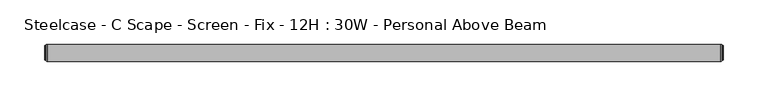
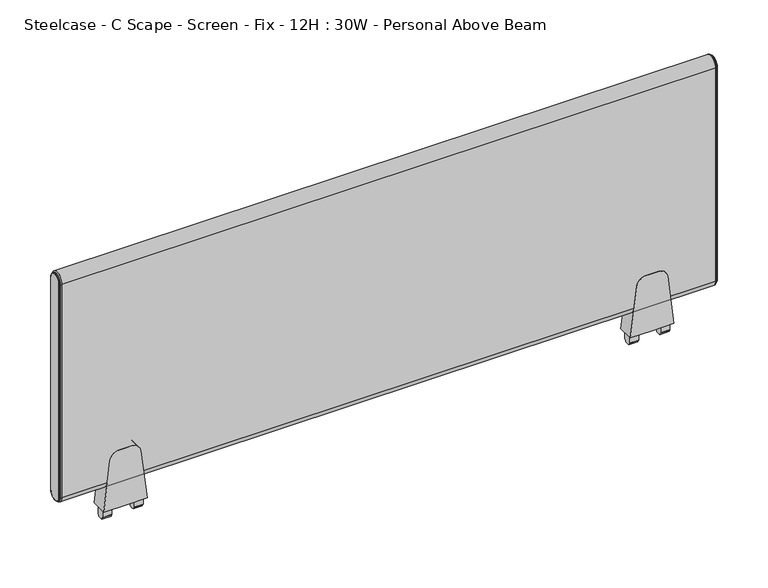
"""IFC4 building model written with IfcOpenShell, lengths in millimetres: furniture geometry, Steelcase - C Scape - Screen - Fix - 12H : 30W - Personal Above Beam."""

from ifc_helpers import new_model, si_unit, point, frame, frame_2d, origin, place, context, project, spatial, polyline, circle_curve, ellipse_curve, trimmed, segment, composite_curve, outline, extrude, source, transform, mapped, element, save
from ifc_brep_helpers import plane_surface, cylinder_surface, revolved_surface, advanced_brep


def steelcase_c_scape_screen_fix_12h_30w_personal_above_beam_dff0a0fa(model_context):
    return source(origin(), model_context, "Body", "SolidModel", [
        extrude(outline(composite_curve([segment(polyline([(609.511112, 101.4730434), (669.8362421, 94.0661495)]), True, "CONTINUOUS"), segment(trimmed(circle_curve(frame_2d((668.5143718, 83.300233)), 10.8467645), [point((669.8362421, 94.0661495))], [point((679.3611362, 83.300233))], False, "CARTESIAN"), True, "CONTINUOUS"), segment(polyline([(679.3611362, 83.300233), (679.3611362, 76.2001674), (679.3611362, 69.1001018)]), True, "CONTINUOUS"), segment(trimmed(circle_curve(frame_2d((668.5143718, 69.1001018)), 10.8467645), [point((679.3611362, 69.1001018))], [point((669.8362421, 58.3341853))], False, "CARTESIAN"), True, "CONTINUOUS"), segment(polyline([(669.8362421, 58.3341853), (609.511112, 50.9272915), (609.511112, 76.2001674), (609.511112, 101.4730434)]), True, "CONTINUOUS")], self_intersect=False)), frame((0.0, -9.525, 0.0), z_axis=(0.0, 1.0, 0.0), x_axis=(0.0, 0.0, 1.0)), (0.0, 0.0, 1.0), 19.05),
        extrude(outline(polyline([(4.5465975, 609.511112), (4.5465975, 599.6051033), (4.0139265, 598.7186748), (2.9972008, 598.7186748), (2.9972008, 596.4834188), (0.0, 596.392), (-2.9972008, 596.4834188), (-2.9972008, 598.7186748), (-4.0139265, 598.7186748), (-4.5465975, 599.6051033), (-4.5465975, 609.511112), (0.0, 609.511112), (4.5465975, 609.511112)])), frame((88.9267162, 0.0, 0.0), z_axis=(1.0, 0.0, 0.0), x_axis=(0.0, 1.0, 0.0)), (0.0, 0.0, 1.0), 10.7813187),
        extrude(outline(polyline([(4.5465975, 609.511112), (4.5465975, 599.6051033), (4.0139265, 598.7186748), (2.9972008, 598.7186748), (2.9972008, 596.4834188), (0.0, 596.392), (-2.9972008, 596.4834188), (-2.9972008, 598.7186748), (-4.0139265, 598.7186748), (-4.5465975, 599.6051033), (-4.5465975, 609.511112), (0.0, 609.511112), (4.5465975, 609.511112)])), frame((52.6923, 0.0, 0.0), z_axis=(1.0, 0.0, 0.0), x_axis=(0.0, 1.0, 0.0)), (0.0, 0.0, 1.0), 10.7813187),
        extrude(outline(composite_curve([segment(polyline([(609.511112, 710.3107132), (669.8362421, 702.9038193)]), True, "CONTINUOUS"), segment(trimmed(circle_curve(frame_2d((668.5143718, 692.1379028)), 10.8467645), [point((669.8362421, 702.9038193))], [point((679.3611362, 692.1379028))], False, "CARTESIAN"), True, "CONTINUOUS"), segment(polyline([(679.3611362, 692.1379028), (679.3611362, 685.0378372), (679.3611362, 677.9377716)]), True, "CONTINUOUS"), segment(trimmed(circle_curve(frame_2d((668.5143718, 677.9377716)), 10.8467645), [point((679.3611362, 677.9377716))], [point((669.8362421, 667.1718551))], False, "CARTESIAN"), True, "CONTINUOUS"), segment(polyline([(669.8362421, 667.1718551), (609.511112, 659.7649612), (609.511112, 685.0378372), (609.511112, 710.3107132)]), True, "CONTINUOUS")], self_intersect=False)), frame((0.0, -9.525, 0.0), z_axis=(0.0, 1.0, 0.0), x_axis=(0.0, 0.0, 1.0)), (0.0, 0.0, 1.0), 19.05),
        extrude(outline(polyline([(4.5465975, 609.511112), (4.5465975, 599.6051033), (4.0139265, 598.7186748), (2.9972008, 598.7186748), (2.9972008, 596.4834188), (0.0, 596.392), (-2.9972008, 596.4834188), (-2.9972008, 598.7186748), (-4.0139265, 598.7186748), (-4.5465975, 599.6051033), (-4.5465975, 609.511112), (0.0, 609.511112), (4.5465975, 609.511112)])), frame((697.764386, 0.0, 0.0), z_axis=(1.0, 0.0, 0.0), x_axis=(0.0, 1.0, 0.0)), (0.0, 0.0, 1.0), 10.7813187),
        extrude(outline(polyline([(4.5465975, 609.511112), (4.5465975, 599.6051033), (4.0139265, 598.7186748), (2.9972008, 598.7186748), (2.9972008, 596.4834188), (0.0, 596.392), (-2.9972008, 596.4834188), (-2.9972008, 598.7186748), (-4.0139265, 598.7186748), (-4.5465975, 599.6051033), (-4.5465975, 609.511112), (0.0, 609.511112), (4.5465975, 609.511112)])), frame((661.5299698, 0.0, 0.0), z_axis=(1.0, 0.0, 0.0), x_axis=(0.0, 1.0, 0.0)), (0.0, 0.0, 1.0), 10.7813187),
        advanced_brep(
        [(758.4486613, -9.525, 904.875), (758.4486613, 9.525, 904.875), (758.4486613, 9.525, 644.525), (758.4486613, -9.525, 644.525), (761.2426613, 7.4929583, 904.875), (761.2426613, -7.4929583, 904.875), (761.2426613, -7.4929583, 644.525), (761.2426613, 7.4929583, 644.525), (760.7346545, -8.0009651, 904.875), (760.7346545, 8.0009651, 904.875), (759.4646613, 8.0009651, 904.875), (759.4646613, -8.0009651, 904.875), (759.4646613, -8.8204932, 904.875), (759.4646613, 8.8204932, 904.875), (759.4646613, -8.0009651, 644.525), (760.7346545, -8.0009651, 644.525), (759.4646613, -8.8204932, 644.525), (759.4646613, 8.0009651, 644.525), (760.7346545, 8.0009651, 644.525), (759.4646613, 8.8204932, 644.525)],
        [
            (0, 1, circle_curve(frame((758.4486613, 0.0, 904.875), z_axis=(-1.0, 0.0, 0.0), x_axis=(0.0, 1.0, 0.0)), 9.525)),
            (1, 2),
            (2, 3, circle_curve(frame((758.4486613, 0.0, 644.525), z_axis=(-1.0, 0.0, 0.0), x_axis=(0.0, -1.0, 0.0)), 9.525)),
            (3, 0),
            (4, 5, circle_curve(frame((761.2426613, 0.0, 904.875), z_axis=(1.0, 0.0, 0.0), x_axis=(0.0, 1.0, 0.0)), 7.4929583)),
            (5, 6),
            (6, 7, circle_curve(frame((761.2426613, 0.0, 644.525), z_axis=(1.0, 0.0, 0.0), x_axis=(0.0, -1.0, 0.0)), 7.4929583)),
            (7, 4),
            (8, 9, circle_curve(frame((760.7346545, 0.0, 904.875), z_axis=(-1.0, 0.0, 0.0), x_axis=(0.0, 1.0, 0.0)), 8.0009651)),
            (9, 10),
            (10, 11, circle_curve(frame((759.4646613, 0.0, 904.875), z_axis=(1.0, 0.0, 0.0), x_axis=(0.0, 1.0, 0.0)), 8.0009651)),
            (11, 8),
            (8, 5, circle_curve(frame((760.7346545, -7.4929583, 904.875), z_axis=(0.0, 0.0, 1.0), x_axis=(0.0, -1.0, 0.0)), 0.5080068)),
            (4, 9, circle_curve(frame((760.7346545, 7.4929583, 904.875), z_axis=(0.0, 0.0, 1.0), x_axis=(0.0, 1.0, 0.0)), 0.5080068)),
            (12, 13, circle_curve(frame((759.4646613, 0.0, 904.875), z_axis=(-1.0, 0.0, 0.0), x_axis=(0.0, 1.0, 0.0)), 8.8204932)),
            (13, 1, circle_curve(frame((758.3806211, 8.3420139, 904.875), z_axis=(0.0, 0.0, 1.0), x_axis=(0.0, 1.0, 0.0)), 1.1849411)),
            (0, 12, circle_curve(frame((758.3806211, -8.3420139, 904.875), z_axis=(0.0, 0.0, 1.0), x_axis=(0.0, -1.0, 0.0)), 1.1849411)),
            (11, 14),
            (14, 15),
            (15, 8),
            (15, 6, circle_curve(frame((760.7346545, -7.4929583, 644.525), z_axis=(0.0, 0.0, 1.0), x_axis=(0.0, -1.0, 0.0)), 0.5080068)),
            (3, 16, circle_curve(frame((758.3806211, -8.3420139, 644.525), z_axis=(0.0, 0.0, 1.0), x_axis=(0.0, -1.0, 0.0)), 1.1849411)),
            (16, 12),
            (14, 17, circle_curve(frame((759.4646613, 0.0, 644.525), z_axis=(1.0, 0.0, 0.0), x_axis=(0.0, -1.0, 0.0)), 8.0009651)),
            (17, 18),
            (18, 15, circle_curve(frame((760.7346545, 0.0, 644.525), z_axis=(-1.0, 0.0, 0.0), x_axis=(0.0, -1.0, 0.0)), 8.0009651)),
            (18, 7, circle_curve(frame((760.7346545, 7.4929583, 644.525), z_axis=(0.0, 0.0, -1.0), x_axis=(0.0, 1.0, 0.0)), 0.5080068)),
            (2, 19, circle_curve(frame((758.3806211, 8.3420139, 644.525), z_axis=(0.0, 0.0, -1.0), x_axis=(0.0, 1.0, 0.0)), 1.1849411)),
            (19, 16, circle_curve(frame((759.4646613, 0.0, 644.525), z_axis=(-1.0, 0.0, 0.0), x_axis=(0.0, -1.0, 0.0)), 8.8204932)),
            (9, 18),
            (17, 10),
            (13, 19),
        ],
        [
            plane_surface(frame((758.4486613, -6.3509705, 904.875), z_axis=(-1.0, 0.0, 0.0), x_axis=(0.0, 0.0, 1.0))),
            plane_surface(frame((761.2426613, -6.3509705, 904.875), z_axis=(1.0, 0.0, 0.0), x_axis=(0.0, 0.0, -1.0))),
            cylinder_surface(frame((758.4486613, 0.0, 904.875), z_axis=(1.0, 0.0, 0.0), x_axis=(0.0, 1.0, 0.0)), 8.0009651),
            revolved_surface(trimmed(ellipse_curve(frame((760.7346545, 7.4929583, 904.875), z_axis=(0.0, 0.0, -1.0), x_axis=(0.0, 1.0, 0.0)), 0.5080068, 0.5080068), [point((760.7346545, 8.0009651, 904.875))], [point((761.2426613, 7.4929583, 904.875))], True, "CARTESIAN"), (758.4486613, 0.0, 904.875), (1.0, 0.0, 0.0)),
            revolved_surface(trimmed(ellipse_curve(frame((758.3806211, 8.3420139, 904.875), z_axis=(0.0, 0.0, -1.0), x_axis=(0.0, 1.0, 0.0)), 1.1849411, 1.1849411), [point((758.4486613, 9.525, 904.875))], [point((759.4646613, 8.8204932, 904.875))], True, "CARTESIAN"), (758.4486613, 0.0, 904.875), (1.0, 0.0, 0.0)),
            plane_surface(frame((759.4646613, -8.0009651, 904.875), z_axis=(0.0, -1.0, 0.0), x_axis=(0.0, 0.0, -1.0))),
            cylinder_surface(frame((760.7346545, -7.4929583, 904.875), z_axis=(0.0, 0.0, 1.0), x_axis=(0.0, -1.0, 0.0)), 0.5080068),
            cylinder_surface(frame((758.3806211, -8.3420139, 904.875), z_axis=(0.0, 0.0, 1.0), x_axis=(0.0, -1.0, 0.0)), 1.1849411),
            cylinder_surface(frame((758.4486613, 0.0, 644.525), z_axis=(1.0, 0.0, 0.0), x_axis=(0.0, -1.0, 0.0)), 8.0009651),
            revolved_surface(trimmed(ellipse_curve(frame((760.7346545, -7.4929583, 644.525), z_axis=(0.0, 0.0, 1.0), x_axis=(0.0, -1.0, 0.0)), 0.5080068, 0.5080068), [point((760.7346545, -8.0009651, 644.525))], [point((761.2426613, -7.4929583, 644.525))], True, "CARTESIAN"), (758.4486613, 0.0, 644.525), (1.0, 0.0, 0.0)),
            revolved_surface(trimmed(ellipse_curve(frame((758.3806211, -8.3420139, 644.525), z_axis=(0.0, 0.0, 1.0), x_axis=(0.0, -1.0, 0.0)), 1.1849411, 1.1849411), [point((758.4486613, -9.525, 644.525))], [point((759.4646613, -8.8204932, 644.525))], True, "CARTESIAN"), (758.4486613, 0.0, 644.525), (1.0, 0.0, 0.0)),
            plane_surface(frame((759.4646613, 8.0009651, 644.525), z_axis=(0.0, 1.0, 0.0), x_axis=(0.0, 0.0, 1.0))),
            cylinder_surface(frame((760.7346545, 7.4929583, 644.525), z_axis=(0.0, 0.0, -1.0), x_axis=(0.0, 1.0, 0.0)), 0.5080068),
            cylinder_surface(frame((758.3806211, 8.3420139, 644.525), z_axis=(0.0, 0.0, -1.0), x_axis=(0.0, 1.0, 0.0)), 1.1849411),
            plane_surface(frame((759.4646613, 8.8204932, 644.525), z_axis=(1.0, 0.0, 0.0), x_axis=(0.0, 0.0, 1.0))),
        ],
        [
            (0, [[1, 2, 3, 4]]),
            (1, [[5, 6, 7, 8]]),
            (2, [[9, 10, 11, 12]]),
            (3, [[-9, 13, -5, 14]]),
            (4, [[15, 16, -1, 17]]),
            (5, [[-12, 18, 19, 20]]),
            (6, [[-13, -20, 21, -6]]),
            (7, [[-17, -4, 22, 23]]),
            (8, [[-19, 24, 25, 26]]),
            (9, [[-21, -26, 27, -7]]),
            (10, [[-22, -3, 28, 29]]),
            (11, [[-10, 30, -25, 31]]),
            (12, [[-14, -8, -27, -30]]),
            (13, [[-16, 32, -28, -2]]),
            (14, [[-15, -23, -29, -32], [-11, -31, -24, -18]]),
        ],
    ),
        advanced_brep(
        [(2.7940155, 9.525, 904.875), (2.7940155, -9.525, 904.875), (2.7940155, -9.525, 644.525), (2.7940155, 9.525, 644.525), (0.0, -7.4929583, 904.875), (0.0, 7.4929583, 904.875), (0.0, 7.4929583, 644.525), (0.0, -7.4929583, 644.525), (1.778, 8.8204932, 904.875), (1.778, -8.8204932, 904.875), (0.5080068, -8.0009651, 904.875), (0.5080068, 8.0009651, 904.875), (1.778, -8.0009651, 904.875), (1.778, 8.0009651, 904.875), (1.778, -8.8204932, 644.525), (0.5080068, -8.0009651, 644.525), (1.778, -8.0009651, 644.525), (1.778, 8.8204932, 644.525), (0.5080068, 8.0009651, 644.525), (1.778, 8.0009651, 644.525)],
        [
            (0, 1, circle_curve(frame((2.7940155, 0.0, 904.875), z_axis=(1.0, 0.0, 0.0), x_axis=(0.0, 1.0, 0.0)), 9.525)),
            (1, 2),
            (2, 3, circle_curve(frame((2.7940155, 0.0, 644.525), z_axis=(1.0, 0.0, 0.0), x_axis=(0.0, -1.0, 0.0)), 9.525)),
            (3, 0),
            (4, 5, circle_curve(frame((0.0, 0.0, 904.875), z_axis=(-1.0, 0.0, 0.0), x_axis=(0.0, 1.0, 0.0)), 7.4929583)),
            (5, 6),
            (6, 7, circle_curve(frame((0.0, 0.0, 644.525), z_axis=(-1.0, 0.0, 0.0), x_axis=(0.0, -1.0, 0.0)), 7.4929583)),
            (7, 4),
            (0, 8, circle_curve(frame((2.8620402, 8.3420139, 904.875), z_axis=(0.0, 0.0, 1.0), x_axis=(0.0, -1.0, 0.0)), 1.1849411)),
            (8, 9, circle_curve(frame((1.778, 0.0, 904.875), z_axis=(1.0, 0.0, 0.0), x_axis=(0.0, 1.0, 0.0)), 8.8204932)),
            (9, 1, circle_curve(frame((2.8620402, -8.3420139, 904.875), z_axis=(0.0, 0.0, 1.0), x_axis=(0.0, 1.0, 0.0)), 1.1849411)),
            (10, 11, circle_curve(frame((0.5080068, 0.0, 904.875), z_axis=(-1.0, 0.0, 0.0), x_axis=(0.0, 1.0, 0.0)), 8.0009651)),
            (11, 5, circle_curve(frame((0.5080068, 7.4929583, 904.875), z_axis=(0.0, 0.0, 1.0), x_axis=(0.0, -1.0, 0.0)), 0.5080068)),
            (4, 10, circle_curve(frame((0.5080068, -7.4929583, 904.875), z_axis=(0.0, 0.0, 1.0), x_axis=(0.0, 1.0, 0.0)), 0.5080068)),
            (10, 12),
            (12, 13, circle_curve(frame((1.778, 0.0, 904.875), z_axis=(-1.0, 0.0, 0.0), x_axis=(0.0, 1.0, 0.0)), 8.0009651)),
            (13, 11),
            (9, 14),
            (14, 2, circle_curve(frame((2.8620402, -8.3420139, 644.525), z_axis=(0.0, 0.0, 1.0), x_axis=(0.0, 1.0, 0.0)), 1.1849411)),
            (7, 15, circle_curve(frame((0.5080068, -7.4929583, 644.525), z_axis=(0.0, 0.0, 1.0), x_axis=(0.0, 1.0, 0.0)), 0.5080068)),
            (15, 10),
            (15, 16),
            (16, 12),
            (14, 17, circle_curve(frame((1.778, 0.0, 644.525), z_axis=(1.0, 0.0, 0.0), x_axis=(0.0, -1.0, 0.0)), 8.8204932)),
            (17, 3, circle_curve(frame((2.8620402, 8.3420139, 644.525), z_axis=(0.0, 0.0, -1.0), x_axis=(0.0, -1.0, 0.0)), 1.1849411)),
            (6, 18, circle_curve(frame((0.5080068, 7.4929583, 644.525), z_axis=(0.0, 0.0, -1.0), x_axis=(0.0, -1.0, 0.0)), 0.5080068)),
            (18, 15, circle_curve(frame((0.5080068, 0.0, 644.525), z_axis=(-1.0, 0.0, 0.0), x_axis=(0.0, -1.0, 0.0)), 8.0009651)),
            (18, 19),
            (19, 16, circle_curve(frame((1.778, 0.0, 644.525), z_axis=(-1.0, 0.0, 0.0), x_axis=(0.0, -1.0, 0.0)), 8.0009651)),
            (8, 17),
            (19, 13),
            (11, 18),
        ],
        [
            plane_surface(frame((2.7940155, -6.3509705, 904.875), z_axis=(1.0, 0.0, 0.0), x_axis=(0.0, 0.0, -1.0))),
            plane_surface(frame((0.0, -6.3509705, 904.875), z_axis=(-1.0, 0.0, 0.0), x_axis=(0.0, 0.0, 1.0))),
            revolved_surface(trimmed(ellipse_curve(frame((2.8620402, 8.3420139, 904.875), z_axis=(0.0, 0.0, -1.0), x_axis=(0.0, -1.0, 0.0)), 1.1849411, 1.1849411), [point((1.778, 8.8204932, 904.875))], [point((2.794, 9.525, 904.875))], True, "CARTESIAN"), (2.794, 0.0, 904.875), (1.0, 0.0, 0.0)),
            revolved_surface(trimmed(ellipse_curve(frame((0.5080068, 7.4929583, 904.875), z_axis=(0.0, 0.0, -1.0), x_axis=(0.0, -1.0, 0.0)), 0.5080068, 0.5080068), [point((0.0, 7.4929583, 904.875))], [point((0.5080068, 8.0009651, 904.875))], True, "CARTESIAN"), (2.794, 0.0, 904.875), (1.0, 0.0, 0.0)),
            cylinder_surface(frame((2.794, 0.0, 904.875), z_axis=(1.0, 0.0, 0.0), x_axis=(0.0, 1.0, 0.0)), 8.0009651),
            cylinder_surface(frame((2.8620402, -8.3420139, 904.875), z_axis=(0.0, 0.0, 1.0), x_axis=(0.0, 1.0, 0.0)), 1.1849411),
            cylinder_surface(frame((0.5080068, -7.4929583, 904.875), z_axis=(0.0, 0.0, 1.0), x_axis=(0.0, 1.0, 0.0)), 0.5080068),
            plane_surface(frame((0.5080068, -8.0009651, 904.875), z_axis=(0.0, -1.0, 0.0), x_axis=(0.0, 0.0, -1.0))),
            revolved_surface(trimmed(ellipse_curve(frame((2.8620402, -8.3420139, 644.525), z_axis=(0.0, 0.0, 1.0), x_axis=(0.0, 1.0, 0.0)), 1.1849411, 1.1849411), [point((1.778, -8.8204932, 644.525))], [point((2.794, -9.525, 644.525))], True, "CARTESIAN"), (2.794, 0.0, 644.525), (1.0, 0.0, 0.0)),
            revolved_surface(trimmed(ellipse_curve(frame((0.5080068, -7.4929583, 644.525), z_axis=(0.0, 0.0, 1.0), x_axis=(0.0, 1.0, 0.0)), 0.5080068, 0.5080068), [point((0.0, -7.4929583, 644.525))], [point((0.5080068, -8.0009651, 644.525))], True, "CARTESIAN"), (2.794, 0.0, 644.525), (1.0, 0.0, 0.0)),
            cylinder_surface(frame((2.794, 0.0, 644.525), z_axis=(1.0, 0.0, 0.0), x_axis=(0.0, -1.0, 0.0)), 8.0009651),
            plane_surface(frame((1.778, 8.0009651, 644.525), z_axis=(-1.0, 0.0, 0.0), x_axis=(0.0, 0.0, 1.0))),
            cylinder_surface(frame((2.8620402, 8.3420139, 644.525), z_axis=(0.0, 0.0, -1.0), x_axis=(0.0, -1.0, 0.0)), 1.1849411),
            cylinder_surface(frame((0.5080068, 7.4929583, 644.525), z_axis=(0.0, 0.0, -1.0), x_axis=(0.0, -1.0, 0.0)), 0.5080068),
            plane_surface(frame((0.5080068, 8.0009651, 644.525), z_axis=(0.0, 1.0, 0.0), x_axis=(0.0, 0.0, 1.0))),
        ],
        [
            (0, [[1, 2, 3, 4]]),
            (1, [[5, 6, 7, 8]]),
            (2, [[-1, 9, 10, 11]]),
            (3, [[12, 13, -5, 14]]),
            (4, [[-12, 15, 16, 17]]),
            (5, [[-11, 18, 19, -2]]),
            (6, [[-14, -8, 20, 21]]),
            (7, [[-15, -21, 22, 23]]),
            (8, [[-19, 24, 25, -3]]),
            (9, [[-20, -7, 26, 27]]),
            (10, [[-22, -27, 28, 29]]),
            (11, [[-10, 30, -24, -18], [-16, -23, -29, 31]]),
            (12, [[-9, -4, -25, -30]]),
            (13, [[-13, 32, -26, -6]]),
            (14, [[-17, -31, -28, -32]]),
        ],
    ),
        extrude(outline(composite_curve([segment(trimmed(circle_curve(frame_2d((0.0, 904.875)), 9.525), [point((-9.525, 904.875))], [point((9.525, 904.875))], False, "CARTESIAN"), True, "CONTINUOUS"), segment(polyline([(9.525, 904.875), (9.525, 644.525)]), True, "CONTINUOUS"), segment(trimmed(circle_curve(frame_2d((0.0, 644.525)), 9.525), [point((9.525, 644.525))], [point((-9.525, 644.525))], False, "CARTESIAN"), True, "CONTINUOUS"), segment(polyline([(-9.525, 644.525), (-9.525, 904.875)]), True, "CONTINUOUS")], self_intersect=False)), frame((2.794, 0.0, 0.0), z_axis=(1.0, 0.0, 0.0), x_axis=(0.0, 1.0, 0.0)), (0.0, 0.0, 1.0), 755.6546613),
    ])


if __name__ == "__main__":
    model = new_model("IFC4")
    model_context = context("Model", 3, world=origin())
    ifc_project = project(units=[si_unit("LENGTHUNIT", "METRE", prefix="MILLI")], contexts=[model_context])
    site = spatial("IfcSite", under=ifc_project)
    building = spatial("IfcBuilding", under=site)
    placement = place(None, origin())
    steelcase_c_scape_screen_fix_12h_30w_personal_above_beam_shape = steelcase_c_scape_screen_fix_12h_30w_personal_above_beam_dff0a0fa(model_context)
    element("IfcFurniture", 1, ObjectType="Steelcase - C Scape - Screen - Fix - 12H : 30W - Personal Above Beam", at=placement, inside=building, context=model_context, shape_type="MappedRepresentation", body=[
        mapped(steelcase_c_scape_screen_fix_12h_30w_personal_above_beam_shape, transform((0.0, 0.0, 0.0), x_axis=(1.0, 0.0, 0.0), y_axis=(0.0, 1.0, 0.0), z_axis=(0.0, 0.0, 1.0))),
    ])
    save(model, "model.ifc")
